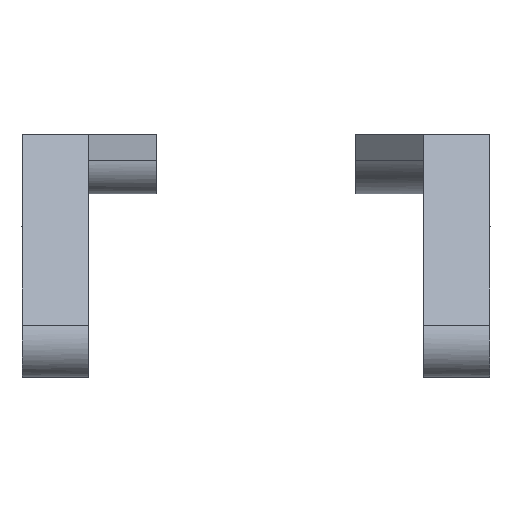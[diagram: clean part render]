
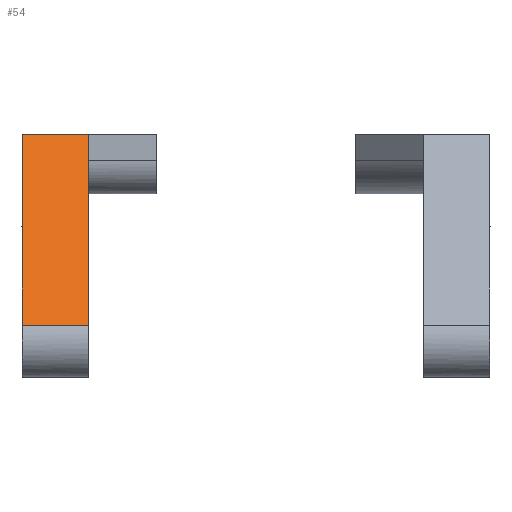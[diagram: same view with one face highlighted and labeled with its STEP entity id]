
A CAD part, front view. The second image highlights one B-rep face of the part: STEP entity #54.
In plain terms, the highlighted planar face has unit normal (0, -0.811, 0.585).
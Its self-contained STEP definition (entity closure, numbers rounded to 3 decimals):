
#54=ADVANCED_FACE('',(#208),#2660,.T.);
#208=FACE_OUTER_BOUND('',#363,.T.);
#363=EDGE_LOOP('',(#565,#566,#567,#568));
#565=ORIENTED_EDGE('',*,*,#1430,.T.);
#566=ORIENTED_EDGE('',*,*,#1427,.F.);
#567=ORIENTED_EDGE('',*,*,#1432,.F.);
#568=ORIENTED_EDGE('',*,*,#1433,.F.);
#1427=EDGE_CURVE('',#2291,#2290,#2153,.T.);
#1430=EDGE_CURVE('',#2294,#2290,#2156,.T.);
#1432=EDGE_CURVE('',#2297,#2291,#2158,.T.);
#1433=EDGE_CURVE('',#2294,#2297,#2159,.T.);
#2153=B_SPLINE_CURVE_WITH_KNOTS('',1,(#3507,#3508),.UNSPECIFIED.,.F.,.F.,
(2,2),(-46.016,0.),.UNSPECIFIED.);
#2156=B_SPLINE_CURVE_WITH_KNOTS('',3,(#3513,#3514,#3515,#3516),
 .UNSPECIFIED.,.F.,.F.,(4,4),(9.771,45.241),
 .UNSPECIFIED.);
#2158=B_SPLINE_CURVE_WITH_KNOTS('',3,(#3519,#3520,#3521,#3522),
 .UNSPECIFIED.,.F.,.F.,(4,4),(9.771,45.241),
 .UNSPECIFIED.);
#2159=B_SPLINE_CURVE_WITH_KNOTS('',1,(#3523,#3524),.UNSPECIFIED.,.F.,.F.,
(2,2),(0.,10.),.UNSPECIFIED.);
#2290=VERTEX_POINT('',#3349);
#2291=VERTEX_POINT('',#3350);
#2294=VERTEX_POINT('',#3353);
#2297=VERTEX_POINT('',#3356);
#2660=PLANE('',#2818);
#2818=AXIS2_PLACEMENT_3D('',#3124,#2971,$);
#2971=DIRECTION('',(0.,-0.811,0.585));
#3124=CARTESIAN_POINT('',(-35.249,-90.,-46.694));
#3349=CARTESIAN_POINT('',(-25.249,-63.537,-10.));
#3350=CARTESIAN_POINT('',(-35.249,-63.537,-10.));
#3353=CARTESIAN_POINT('',(-25.249,-84.285,-38.769));
#3356=CARTESIAN_POINT('',(-35.249,-84.285,-38.769));
#3507=CARTESIAN_POINT('',(-35.249,-63.537,-10.));
#3508=CARTESIAN_POINT('',(-25.249,-63.537,-10.));
#3513=CARTESIAN_POINT('',(-25.249,-84.285,-38.769));
#3514=CARTESIAN_POINT('',(-25.249,-77.369,-29.179));
#3515=CARTESIAN_POINT('',(-25.249,-70.453,-19.59));
#3516=CARTESIAN_POINT('',(-25.249,-63.537,-10.));
#3519=CARTESIAN_POINT('',(-35.249,-84.285,-38.769));
#3520=CARTESIAN_POINT('',(-35.249,-77.369,-29.179));
#3521=CARTESIAN_POINT('',(-35.249,-70.453,-19.59));
#3522=CARTESIAN_POINT('',(-35.249,-63.537,-10.));
#3523=CARTESIAN_POINT('',(-25.249,-84.285,-38.769));
#3524=CARTESIAN_POINT('',(-35.249,-84.285,-38.769));
